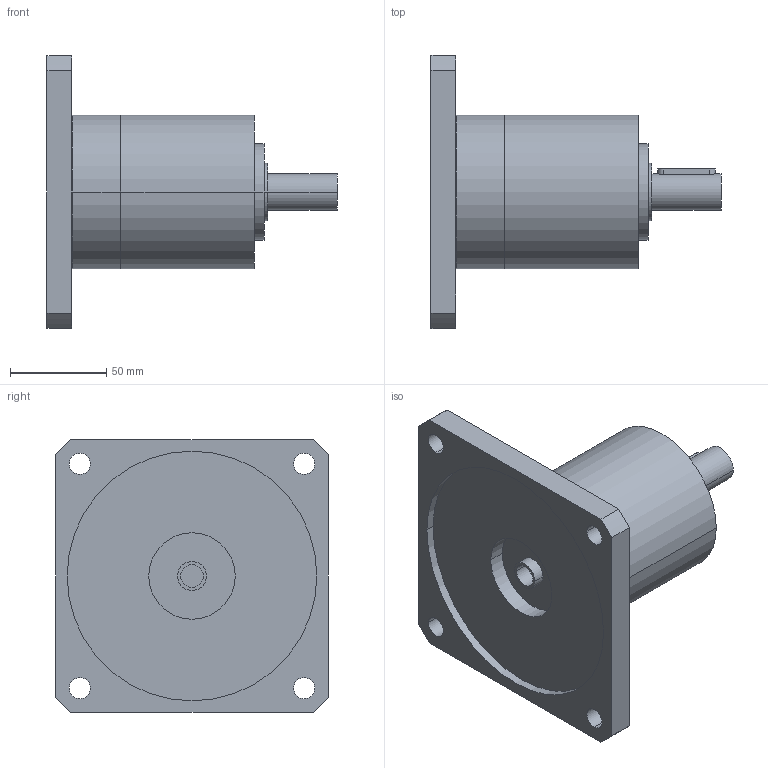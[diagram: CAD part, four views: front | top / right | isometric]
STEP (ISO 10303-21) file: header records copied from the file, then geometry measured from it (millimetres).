
FILE_DESCRIPTION(('CoCreate Modeling STEP Export'),'2;1');
FILE_NAME('GPR100_ig-3-4-5-6_19_B14_12_P16.stp','2014-08-26T10:06:02',(''),(''),'CoCreate Modeling STEP processor for AP214 (Solid Model)','CoCreate Modeling 16.00C 25-Feb-2009 (C) Parametric Technology GmbH','');
FILE_SCHEMA(('AUTOMOTIVE_DESIGN { 1 0 10303 214 1 1 1 1 }'));
Length unit declared in the file: millimetre
Products named in the file (2): GPR100_ig-3-4-5-6_19_B14_12_P16
Assembly tree (1 placements, depth 2):
  GPR100_ig-3-4-5-6_19_B14_12_P16
    GPR100_ig-3-4-5-6_19_B14_12_P16
Bounding box: 151 x 142 x 142 mm (x, y, z)
Volume: 678223.9 mm3; surface area: 81361.1 mm2
Topology: 1 solids, 1 shells, 70 faces, 185 edges, 129 vertices
Faces by surface type: cylinder 42, plane 22, cone 6
Entity records: 1924 total; most frequent: ORIENTED_EDGE 366, CARTESIAN_POINT 357, DIRECTION 262, EDGE_CURVE 183, VERTEX_POINT 129, AXIS2_PLACEMENT_3D 98, EDGE_LOOP 92, FACE_OUTER_BOUND 70
